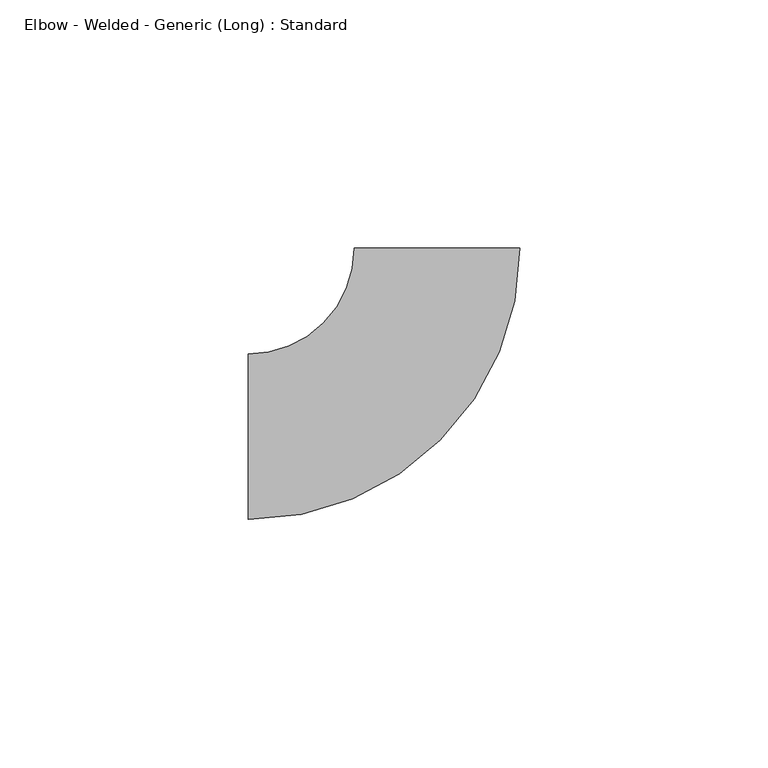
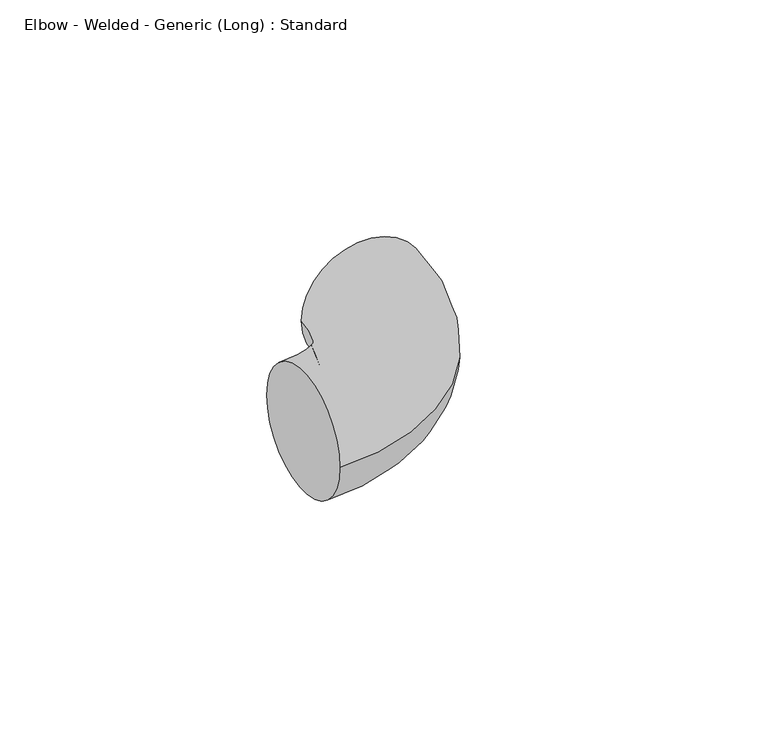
"""IFC4 building model written with IfcOpenShell, lengths in millimetres: pipe fitting geometry, Elbow - Welded - Generic (Long) : Standard."""

import ifcopenshell
import ifcopenshell.guid

model = None  # the IFC model being written
_history = None  # IfcOwnerHistory: only IFC2X3 demands one
_inside = {}  # id of a spatial element -> (the spatial element, [elements in it])
_under = {}  # id of a project, library or spatial element -> (it, [spatial elements below it])
_declared = {}  # id of a project -> (the project, [libraries it declares])
_typed = {}  # id of a type object -> (the type object, [elements of that type])
_made_of = {}  # id of a material, layer set ... -> (it, [elements and type objects made of it])


def new_model(schema):
    """Start an empty IFC model of exactly this schema.

    Asked for "IFC4X3", IfcOpenShell would pick the latest addendum, in which some entities
    have other attributes; the version numbers below select the first issue.
    IFC2X3 requires an IfcOwnerHistory on every rooted entity: one is made here for all.
    """
    global model, _history
    if schema == "IFC4X3":
        model = ifcopenshell.file(schema_version=(4, 3, 0, 0))
    else:
        model = ifcopenshell.file(schema=schema)
    _inside.clear()
    _under.clear()
    _declared.clear()
    _typed.clear()
    _made_of.clear()
    _history = None
    if model.schema == "IFC2X3":
        org = make("IfcOrganization", Name="unknown")
        user = make(
            "IfcPersonAndOrganization",
            ThePerson=make("IfcPerson", FamilyName="unknown"),
            TheOrganization=org,
        )
        app = make(
            "IfcApplication",
            ApplicationDeveloper=org,
            Version="unknown",
            ApplicationFullName="unknown",
            ApplicationIdentifier="unknown",
        )
        _history = make(
            "IfcOwnerHistory",
            OwningUser=user,
            OwningApplication=app,
            ChangeAction="ADDED",
            CreationDate=0,
        )
    return model


def make(cls, **values):
    """One entity of the class cls with the attributes given. An attribute that is None is left unset."""
    return model.create_entity(
        cls, **{name: value for name, value in values.items() if value is not None}
    )


def rooted(cls, **values):
    """An entity with a GlobalId (a new one), such as an element, a storey or a relation."""
    return make(cls, GlobalId=ifcopenshell.guid.new(), OwnerHistory=_history, **values)


def si_unit(unit_type, name, prefix=None):
    """IfcSIUnit, for example si_unit("LENGTHUNIT", "METRE", prefix="MILLI")."""
    return make("IfcSIUnit", UnitType=unit_type, Prefix=prefix, Name=name)


def assignment(units):
    """IfcUnitAssignment: the units of a project."""
    return None if units is None else make("IfcUnitAssignment", Units=units)


def point(xyz):
    """IfcCartesianPoint."""
    return None if xyz is None else make("IfcCartesianPoint", Coordinates=xyz)


def direction(xyz):
    """IfcDirection."""
    return None if xyz is None else make("IfcDirection", DirectionRatios=xyz)


def frame(location, z_axis=None, x_axis=None):
    """IfcAxis2Placement3D, a coordinate frame: its origin and axes. An axis left out is left unset."""
    return make(
        "IfcAxis2Placement3D",
        Location=point(location),
        Axis=direction(z_axis),
        RefDirection=direction(x_axis),
    )


def origin():
    """The frame at (0, 0, 0) with its axes left unset."""
    return frame((0.0, 0.0, 0.0))


def place(relative_to, where):
    """IfcLocalPlacement: puts the frame where relative to a parent placement (None: the world)."""
    return make(
        "IfcLocalPlacement", PlacementRelTo=relative_to, RelativePlacement=where
    )


def context(
    kind, dimensions, precision=None, world=None, true_north=None, identifier=None
):
    """IfcGeometricRepresentationContext, for example the 3D "Model" context."""
    return make(
        "IfcGeometricRepresentationContext",
        ContextIdentifier=identifier,
        ContextType=kind,
        CoordinateSpaceDimension=dimensions,
        Precision=precision,
        WorldCoordinateSystem=world,
        TrueNorth=true_north,
    )


def project(units=None, contexts=None):
    """IfcProject with its units and contexts."""
    return rooted(
        "IfcProject",
        Name="project",
        RepresentationContexts=contexts,
        UnitsInContext=assignment(units),
    )


def spatial(cls, under=None, at=None, **own):
    """A site, building, storey or space (cls), placed at a placement, below another one or the project."""
    s = rooted(cls, ObjectPlacement=at, **own)
    if under is not None:
        _under.setdefault(under.id(), (under, []))[1].append(s)
    return s


def circle_curve(where, radius):
    """IfcCircle in the frame where."""
    return make("IfcCircle", Position=where, Radius=radius)


def ellipse_curve(where, semi_axis1, semi_axis2):
    """IfcEllipse in the frame where."""
    return make(
        "IfcEllipse", Position=where, SemiAxis1=semi_axis1, SemiAxis2=semi_axis2
    )


def trimmed(basis, trim1, trim2, sense, master):
    """IfcTrimmedCurve: the piece of a basis curve between two trims."""
    return make(
        "IfcTrimmedCurve",
        BasisCurve=basis,
        Trim1=trim1,
        Trim2=trim2,
        SenseAgreement=sense,
        MasterRepresentation=master,
    )


def shape(context_of_items, identifier, shape_type, items):
    """IfcShapeRepresentation: the items that make up one representation, for example the "Body"."""
    return make(
        "IfcShapeRepresentation",
        ContextOfItems=context_of_items,
        RepresentationIdentifier=identifier,
        RepresentationType=shape_type,
        Items=items,
    )


def source(mapping_origin, context_of_items, identifier, shape_type, items):
    """IfcRepresentationMap: a shape defined once, which mapped items show again and again."""
    return make(
        "IfcRepresentationMap",
        MappingOrigin=mapping_origin,
        MappedRepresentation=shape(context_of_items, identifier, shape_type, items),
    )


def transform(
    local_origin,
    x_axis=None,
    y_axis=None,
    z_axis=None,
    scale=None,
    scale2=None,
    scale3=None,
    uniform=True,
):
    """IfcCartesianTransformationOperator3D, or its non-uniform kind. x_axis, y_axis, z_axis: its Axis1, 2, 3."""
    if uniform:
        return make(
            "IfcCartesianTransformationOperator3D",
            Axis1=direction(x_axis),
            Axis2=direction(y_axis),
            LocalOrigin=point(local_origin),
            Scale=scale,
            Axis3=direction(z_axis),
        )
    return make(
        "IfcCartesianTransformationOperator3DnonUniform",
        Axis1=direction(x_axis),
        Axis2=direction(y_axis),
        LocalOrigin=point(local_origin),
        Scale=scale,
        Axis3=direction(z_axis),
        Scale2=scale2,
        Scale3=scale3,
    )


def mapped(mapping_source, mapping_target):
    """IfcMappedItem: shows the shape of a source again, moved by a transform."""
    return make(
        "IfcMappedItem", MappingSource=mapping_source, MappingTarget=mapping_target
    )


def made_of(thing, what):
    """Note that an element or type object is made of a material, layer set ...; save() writes the relation."""
    if what is not None:
        _made_of.setdefault(what.id(), (what, []))[1].append(thing)
    return thing


def element(
    cls,
    number,
    at=None,
    inside=None,
    cuts=None,
    type_object=None,
    material=None,
    context=None,
    identifier="Body",
    shape_type=None,
    held_by="IfcProductDefinitionShape",
    body=None,
    shapes=None,
    **own,
):
    """One element of the class cls, such as IfcWall. Its Tag is "e" and its number.

    at: its placement. inside: the storey or other place that contains it. cuts: it is an
    opening in that element (IfcRelVoidsElement). A single representation is given by context,
    identifier, shape_type and body (its items); several are given by shapes. held_by: the class
    of the entity that holds the representations. save() writes the other relations.
    """
    e = rooted(cls, Tag="e%d" % number, ObjectPlacement=at, **own)
    if body is not None:
        shapes = [shape(context, identifier, shape_type, body)]
    if shapes is not None:
        e.Representation = make(held_by, Representations=shapes)
    if inside is not None:
        _inside.setdefault(inside.id(), (inside, []))[1].append(e)
    if cuts is not None:
        rooted(
            "IfcRelVoidsElement", RelatingBuildingElement=cuts, RelatedOpeningElement=e
        )
    if type_object is not None:
        _typed.setdefault(type_object.id(), (type_object, []))[1].append(e)
    return made_of(e, material)


def aggregate(whole, parts):
    """IfcRelAggregates: a whole, such as a stair, and the parts it consists of."""
    return rooted("IfcRelAggregates", RelatingObject=whole, RelatedObjects=parts)


def save(model, path):
    """Write the relations noted so far, then the file.

    IfcRelAggregates (storeys below a building ...), IfcRelContainedInSpatialStructure (elements
    in a storey), IfcRelDefinesByType, IfcRelAssociatesMaterial and IfcRelDeclares: one each for
    every whole, place, type object, material and project.
    """
    for whole, parts in _under.values():
        aggregate(whole, parts)
    for where, things in _inside.values():
        rooted(
            "IfcRelContainedInSpatialStructure",
            RelatedElements=things,
            RelatingStructure=where,
        )
    for kind, things in _typed.values():
        rooted("IfcRelDefinesByType", RelatedObjects=things, RelatingType=kind)
    for what, things in _made_of.values():
        rooted("IfcRelAssociatesMaterial", RelatedObjects=things, RelatingMaterial=what)
    for by, libraries in _declared.values():
        rooted("IfcRelDeclares", RelatingContext=by, RelatedDefinitions=libraries)
    model.write(path)


def plane_surface(at):
    """IfcPlane: the flat surface through the origin of the frame at, square to its z axis."""
    return make("IfcPlane", Position=at)


def revolved_surface(curve, axis_point, axis_direction):
    """IfcSurfaceOfRevolution: the curve turned about the line through axis_point along axis_direction."""
    return make(
        "IfcSurfaceOfRevolution",
        SweptCurve=make("IfcArbitraryOpenProfileDef", ProfileType="CURVE", Curve=curve),
        AxisPosition=make("IfcAxis1Placement", Location=point(axis_point), Axis=direction(axis_direction)),
    )


def advanced_brep(points, edges, surfaces, faces):
    """IfcAdvancedBrep: a solid bounded by faces that lie on surfaces and meet in shared edges.

    An edge is (start, end): straight between two places in points (the first is 0);
    or (start, end, curve); or (start, end, curve, False) where it runs against its curve.
    A face is (place in surfaces, loops), or (place, loops, False) where it looks against
    its surface's normal. A loop lists edges by number (the first is 1), with a minus sign
    where the edge is run from its end to its start. The first loop is the outer one.
    """
    corners = [point(p) for p in points]
    vertices = [make("IfcVertexPoint", VertexGeometry=c) for c in corners]
    made = []
    for start, end, *more in edges:
        made.append(
            make(
                "IfcEdgeCurve",
                EdgeStart=vertices[start],
                EdgeEnd=vertices[end],
                EdgeGeometry=more[0] if more else make("IfcPolyline", Points=[corners[start], corners[end]]),
                SameSense=more[1] if len(more) > 1 else True,
            )
        )
    hull = []
    for where, loops, *sense in faces:
        bounds = []
        for j, loop in enumerate(loops):
            ring = [make("IfcOrientedEdge", EdgeElement=made[abs(k) - 1], Orientation=k > 0) for k in loop]
            bounds.append(
                make(
                    "IfcFaceOuterBound" if j == 0 else "IfcFaceBound",
                    Bound=make("IfcEdgeLoop", EdgeList=ring),
                    Orientation=True,
                )
            )
        hull.append(make("IfcAdvancedFace", Bounds=bounds, FaceSurface=surfaces[where], SameSense=sense[0] if sense else True))
    return make("IfcAdvancedBrep", Outer=make("IfcClosedShell", CfsFaces=hull))


def elbow_welded_generic_long_standard_565bd3e8(model_context):
    return source(origin(), model_context, "Body", "AdvancedBrep", [
        advanced_brep(
        [(-38.1, -16.66875, 0.0), (-38.1, 16.66875, 0.0), (16.6686358, 38.10005, 0.0), (-16.6688642, 38.09995, 0.0)],
        [
            (0, 1, circle_curve(frame((-38.1, 0.0, 0.0), z_axis=(-1.0, 0.0, 0.0), x_axis=(0.0, 1.0, 0.0)), 16.66875)),
            (1, 0, circle_curve(frame((-38.1, 0.0, 0.0), z_axis=(-1.0, 0.0, 0.0), x_axis=(0.0, 1.0, 0.0)), 16.66875)),
            (2, 3, circle_curve(frame((-0.0001142, 38.1, 0.0), z_axis=(-2.9971954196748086e-06, 0.9999999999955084, 0.0), x_axis=(-0.9999999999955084, -2.9971954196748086e-06, 0.0)), 16.66875)),
            (3, 2, circle_curve(frame((-0.0001142, 38.1, 0.0), z_axis=(-2.9971954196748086e-06, 0.9999999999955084, 0.0), x_axis=(-0.9999999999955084, -2.9971954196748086e-06, 0.0)), 16.66875)),
            (3, 1, circle_curve(frame((-38.1, 38.0998858, 0.0), z_axis=(0.0, 0.0, -1.0), x_axis=(0.0, -1.0, 0.0)), 21.4311358)),
            (0, 2, circle_curve(frame((-38.1, 38.0998858, 0.0), z_axis=(0.0, 0.0, 1.0), x_axis=(0.0, -1.0, 0.0)), 54.7686358)),
        ],
        [
            plane_surface(frame((-38.1, 0.0, 0.0), z_axis=(-1.0, 0.0, 0.0), x_axis=(0.0, 0.0, 1.0))),
            plane_surface(frame((-0.0001142, 38.1, 0.0), z_axis=(-2.997195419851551e-06, 0.9999999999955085, 0.0), x_axis=(0.0, 0.0, 1.0))),
            revolved_surface(trimmed(ellipse_curve(frame((-38.1, 0.0, 0.0), z_axis=(-1.0, 0.0, 0.0), x_axis=(0.0, 1.0, 0.0)), 16.66875, 16.66875), [point((-38.1, -16.66875, 0.0))], [point((-38.1, 16.66875, 0.0))], True, "CARTESIAN"), (-38.1, 38.0998858, 0.0), (0.0, 0.0, 1.0)),
            revolved_surface(trimmed(ellipse_curve(frame((-38.1, 0.0, 0.0), z_axis=(-1.0, 0.0, 0.0), x_axis=(0.0, 1.0, 0.0)), 16.66875, 16.66875), [point((-38.1, 16.66875, 0.0))], [point((-38.1, -16.66875, 0.0))], True, "CARTESIAN"), (-38.1, 38.0998858, 0.0), (0.0, 0.0, 1.0)),
        ],
        [
            (0, [[1, 2]]),
            (1, [[3, 4]]),
            (2, [[5, -1, 6, -4]]),
            (3, [[-6, -2, -5, -3]]),
        ],
    ),
    ])


if __name__ == "__main__":
    model = new_model("IFC4")
    model_context = context("Model", 3, world=origin())
    ifc_project = project(units=[si_unit("LENGTHUNIT", "METRE", prefix="MILLI")], contexts=[model_context])
    site = spatial("IfcSite", under=ifc_project)
    building = spatial("IfcBuilding", under=site)
    placement = place(None, origin())
    elbow_welded_generic_long_standard_shape = elbow_welded_generic_long_standard_565bd3e8(model_context)
    element("IfcPipeFitting", 1, ObjectType="Elbow - Welded - Generic (Long) : Standard", at=placement, inside=building, context=model_context, shape_type="MappedRepresentation", body=[
        mapped(elbow_welded_generic_long_standard_shape, transform((0.0, 0.0, 0.0), x_axis=(1.0, 0.0, 0.0), y_axis=(0.0, 1.0, 0.0), z_axis=(0.0, 0.0, 1.0))),
    ])
    save(model, "model.ifc")
